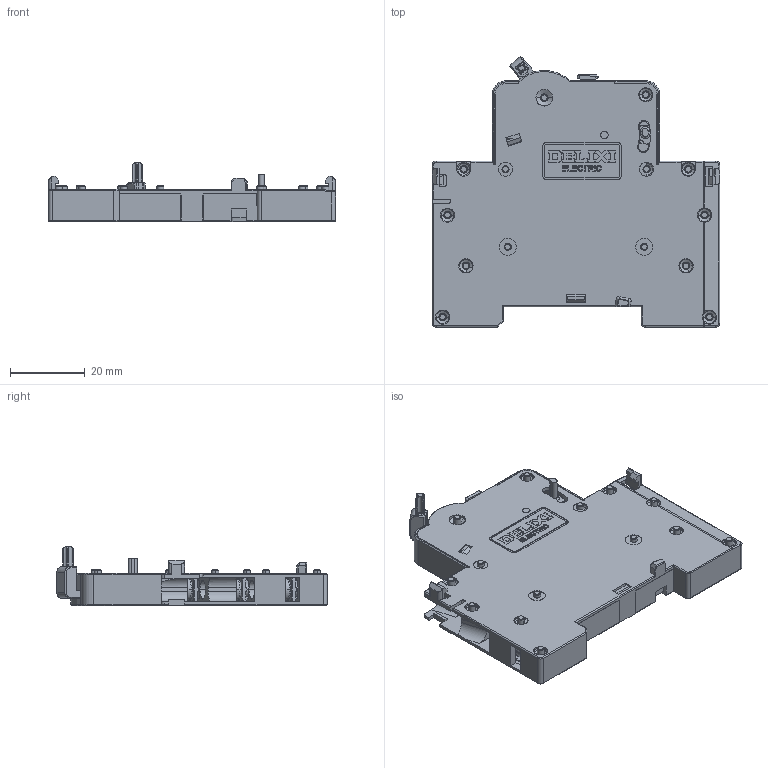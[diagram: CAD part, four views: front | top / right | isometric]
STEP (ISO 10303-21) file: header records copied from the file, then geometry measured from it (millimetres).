
FILE_DESCRIPTION((''),'2;1');
FILE_NAME('2297007100_SW0001','2023-11-07T',('dufeng.zhai'),(''),'PRO/ENGINEER BY PARAMETRIC TECHNOLOGY CORPORATION, 2015440','PRO/ENGINEER BY PARAMETRIC TECHNOLOGY CORPORATION, 2015440','');
FILE_SCHEMA(('CONFIG_CONTROL_DESIGN'));
Products named in the file (1): 2297007100_SW0001
Bounding box: 77 x 72.43 x 15.9 mm (x, y, z)
Volume: 28377.8 mm3; surface area: 23001.7 mm2
Topology: 1 solids, 1 shells, 2791 faces, 7802 edges, 5002 vertices
Faces by surface type: plane 1864, cylinder 506, cone 157, torus 113, extrusion 91, bspline 47, sphere 13
Entity records: 94506 total; most frequent: CARTESIAN_POINT 23400, ORIENTED_EDGE 15604, DIRECTION 13656, EDGE_CURVE 7802, VECTOR 5772, LINE 5681, VERTEX_POINT 5002, AXIS2_PLACEMENT_3D 3942
